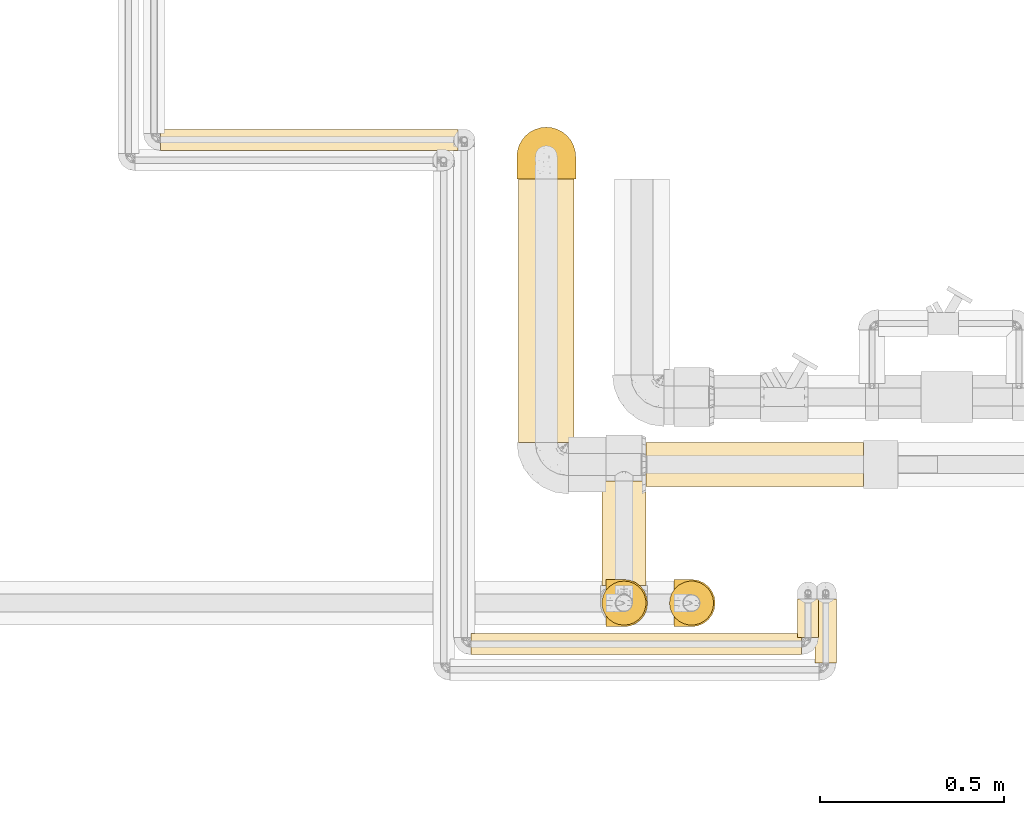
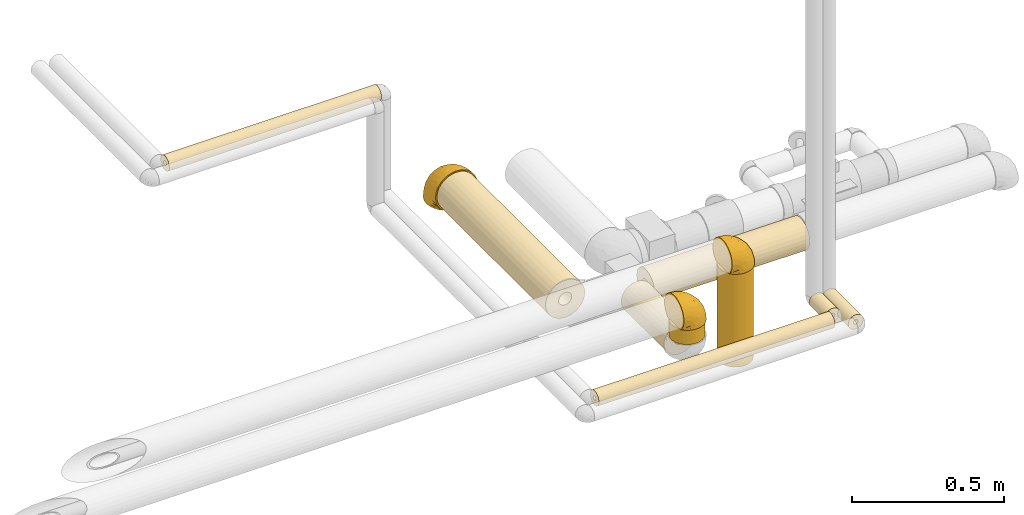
# One storey, part 7 of 83: 12 coverings.
"""IFC2X3 building model written with IfcOpenShell, lengths in millimetres."""

from ifc_helpers import new_model, entity, si_unit, converted_unit, derived_unit, direction, frame, origin_with_axes, origin_2d_with_axis, place, context, subcontext, project, spatial, hollow_circle, extrude, open_shell, surface_model, source, transform, mapped, element, save


model = new_model("IFC2X3")

# Units and contexts
model_context = context("Model", 3, precision=0.01, world=frame((0.0, 4.29681676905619e-09, 0.0)), true_north=direction((4.01073788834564e-13, 1.0)))
plan_context = context("Plan", 3, precision=0.01, world=frame((0.0, 4.29681676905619e-09, 0.0)), true_north=direction((4.01073788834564e-13, 1.0)))
body_context = subcontext(model_context, "Body", "Model", "MODEL_VIEW")
ifc_project = project(units=[converted_unit("PLANEANGLEUNIT", "DEGREE", entity("IfcPositiveLengthMeasure", 0.0174532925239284), si_unit("PLANEANGLEUNIT", "RADIAN"), dimensions=[0, 0, 0, 0, 0, 0, 0]), si_unit("AREAUNIT", "SQUARE_METRE"), si_unit("LENGTHUNIT", "METRE", prefix="MILLI"), si_unit("MASSUNIT", "GRAM", prefix="KILO"), si_unit("POWERUNIT", "WATT"), si_unit("PRESSUREUNIT", "PASCAL"), si_unit("FORCEUNIT", "NEWTON", prefix="KILO"), si_unit("ELECTRICVOLTAGEUNIT", "VOLT"), si_unit("ELECTRICCURRENTUNIT", "AMPERE"), si_unit("THERMODYNAMICTEMPERATUREUNIT", "DEGREE_CELSIUS"), si_unit("TIMEUNIT", "SECOND"), si_unit("VOLUMEUNIT", "CUBIC_METRE"), derived_unit("LINEARVELOCITYUNIT", [(si_unit("LENGTHUNIT", "METRE"), 1), (si_unit("TIMEUNIT", "SECOND"), -1)]), derived_unit("VOLUMETRICFLOWRATEUNIT", [(si_unit("VOLUMEUNIT", "CUBIC_METRE"), 1), (si_unit("TIMEUNIT", "SECOND"), -1)]), derived_unit("THERMALTRANSMITTANCEUNIT", [(si_unit("POWERUNIT", "WATT"), 1), (si_unit("THERMODYNAMICTEMPERATUREUNIT", "KELVIN"), -1), (si_unit("AREAUNIT", "SQUARE_METRE"), -1)]), derived_unit("SOUNDPRESSUREUNIT", [(si_unit("PRESSUREUNIT", "PASCAL"), 1)])], contexts=[model_context, plan_context])

# Site, building, storey
site_placement = place(None, frame((0.0, -4.29681676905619e-09, 0.0), z_axis=(0.0, 0.0, 1.0), x_axis=(1.0, 0.0, 0.0)))
site = spatial("IfcSite", under=ifc_project, at=site_placement, Name="ENGM", CompositionType="ELEMENT")
building_placement = place(site_placement, frame((0.0, 4.29681676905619e-09, 0.0), z_axis=(0.0, 0.0, 1.0), x_axis=(1.0, 0.0, 0.0)))
building = spatial("IfcBuilding", under=site, at=building_placement, Name="TI", CompositionType="ELEMENT")
storey_placement = place(building_placement, frame((0.0, 0.0, 204000.0), z_axis=(0.0, 0.0, 1.0), x_axis=(1.0, 0.0, 0.0)))
storey = spatial("IfcBuildingStorey", under=building, at=storey_placement, Name="Nivå D", CompositionType="ELEMENT", Elevation=204000.0)

# Coverings
shared_shape_1 = source(origin_with_axes(), body_context, "Body", "SurfaceModel", [
    surface_model("IfcShellBasedSurfaceModel", [(66.68615, 60.4, 44.5533), (44.55885, 60.4, 66.68245), (56.71233, 60.4, 56.70759), (74.09701, 60.4, 30.6867), (78.66008, 60.4, 15.64073), (-59.86937, 60.4, -53.36384), (-13.45191, 60.4, 79.06382), (0.0, 60.4, 80.2), (-26.52266, 60.4, 75.68744), (66.68245, 60.4, -44.55885), (80.2, 60.4, 0.0), (78.65881, 60.4, -15.6471), (74.09448, 60.4, -30.6928), (56.70759, 60.4, -56.71233), (44.5533, 60.4, -66.68615), (30.6867, 60.4, -74.09701), (-38.85297, 60.4, -70.16044), (-50.07051, 60.4, -62.6497), (-26.53389, 60.4, -75.6835), (0.0, 60.4, -80.2), (-13.46016, 60.4, -79.06241), (15.64073, 60.4, -78.66008), (-60.4, 47.38479, 64.70488), (-60.4, 59.86937, -53.36384), (-60.4, 47.38479, -64.70488), (-60.4, 16.77314, -78.42641), (-60.4, 16.77314, 78.42641), (-60.4, 32.80442, -73.18408), (-60.4, -20.75729, 77.46726), (-60.4, 0.0, 80.2), (-60.4, 59.86937, 53.36384), (-60.4, 32.80442, 73.18408), (-60.4, 0.0, -80.2), (-60.4, -20.75729, -77.46726), (-60.4, -40.1, -69.45524), (-60.4, -77.46726, -20.75729), (-60.4, -56.70997, -56.70997), (-60.4, -69.45524, -40.1), (-60.4, -40.1, 69.45524), (-60.4, -77.46726, 20.75729), (-60.4, -56.70997, 56.70997), (-60.4, -69.45524, 40.1), (-60.4, -80.2, 0.0), (-60.02478, 60.02478, 53.36384), (-60.02478, 60.02478, -53.36384), (-59.86937, 60.4, 53.36384), (-35.13493, 49.31431, -73.18165), (-30.44414, 36.38988, -77.12086), (-47.24837, 50.14287, -67.23448), (-51.76844, 1.71692, -80.2), (-49.59906, 26.61132, -76.22785), (-37.28592, 4.59768, -80.2), (-52.73185, 51.8369, -63.56342), (-42.45319, 40.2421, -72.90935), (-51.54432, 46.0645, -67.34579), (-56.12324, 44.39109, -67.16398), (-60.25988, 59.9274, -53.36384), (-36.88164, 25.89057, -78.00411), (-21.1535, 51.10695, -77.64859), (-45.04463, 56.76413, -66.64151), (-49.15929, 54.99138, -64.30522), (-59.9274, 60.25988, -53.36384), (-59.97609, 60.14233, -53.36384), (-20.84125, 41.65154, -78.45831), (-4.59768, 37.28592, -80.2), (-11.14421, 27.48834, -80.2), (-60.14233, 59.97609, -53.36384), (-2.29884, 48.84296, -80.2), (-17.69075, 17.69075, -80.2), (-27.48834, 11.14421, -80.2), (-48.22281, 2.42219, -80.2), (-38.04775, -11.91191, -78.72944), (75.40917, 24.01004, 0.0), (72.25534, 25.59122, -23.28207), (10.61001, 22.76207, -77.67441), (21.22289, 41.97871, -76.74814), (31.34576, 25.38063, -70.73221), (-3.74675, -31.18103, -64.77575), (-5.13665, -50.63443, -48.82266), (-32.87645, -45.29789, -63.62694), (-27.38508, -24.49772, -74.09514), (-4.74736, -5.39378, -75.94549), (46.21326, 31.25344, -62.60562), (36.40138, 43.87324, -70.73221), (-44.8504, -25.95034, -75.39633), (39.01921, -39.01921, 0.0), (49.22532, -23.71846, -19.55404), (61.36317, -9.9, 0.0), (-21.92667, -8.25016, -78.08521), (-22.38404, -68.61058, -30.69121), (-34.25952, -60.8409, -48.82266), (-34.15394, -76.26325, -15.12592), (22.35578, -47.44944, -26.93623), (25.62001, -10.18883, -61.99781), (44.02353, 6.8413, -56.46123), (37.09986, -19.13964, -46.3807), (18.79123, 5.85638, -71.78749), (57.98575, 29.33557, -50.88062), (9.9, -61.36317, 0.0), (66.5747, 27.65458, -37.80789), (57.74343, 3.50566, -37.8079), (18.9328, -40.15021, -43.03133), (9.31059, -35.56603, -55.16599), (-7.14053, -68.17975, -15.05794), (0.87984, -60.45932, -28.12389), (62.71669, -0.27663, -22.91513), (-24.01004, -75.40917, 0.0), (4.02735, 8.3767, -77.00574), (9.44148, -11.27075, -69.70024), (47.17014, -18.05894, -33.77057), (58.25151, 27.96235, 50.12561), (62.11094, 13.63756, 37.80204), (68.86186, 38.33131, 37.80204), (-21.55327, -72.8771, 16.7886), (-8.93094, -63.85731, 30.69121), (-37.04517, -72.05186, 30.69121), (48.04336, -22.81151, 24.73654), (28.08242, 17.78952, 70.72908), (20.54188, 39.16084, 76.74624), (8.43896, 21.5252, 77.99965), (43.58186, 7.06783, 56.95761), (22.34051, -7.09908, 65.42836), (34.21801, -17.24442, 50.87545), (-28.29947, -59.40083, 48.82266), (5.41219, -45.68707, 47.74068), (-11.73307, -37.38098, 63.62694), (2.27362, -63.23248, 17.75104), (23.80702, -49.34072, 18.96603), (49.08404, -10.51145, 39.06557), (-38.19227, -11.44439, 78.82289), (-34.65245, -26.97661, 74.09514), (-48.22281, 2.42219, 80.2), (27.59731, -37.89169, 36.27535), (-37.37974, -46.36918, 63.62694), (63.90334, 2.03316, 22.68626), (73.38333, 30.20673, 23.2758), (47.23671, 32.15612, 61.99357), (30.6928, 60.4, 74.09448), (15.6471, 60.4, 78.65881), (34.6965, 35.87563, 70.72909), (-12.06912, -23.90977, 71.26885), (-7.75233, -9.0194, 75.6161), (-23.22723, -15.01108, 76.62586), (-37.28592, 4.59768, 80.2), (-27.48834, 11.14421, 80.2), (-2.29884, 48.84296, 80.2), (-4.59768, 37.28592, 80.2), (13.04574, 5.0174, 73.71794), (6.541, -23.53082, 65.01615), (-2.98218, 9.37603, 78.50255), (-11.14421, 27.48834, 80.2), (-17.69075, 17.69075, 80.2), (-51.76844, 1.71692, 80.2), (-52.73034, 51.83578, 63.56483), (-47.24048, 50.13672, 67.24098), (-45.0362, 56.76319, 66.64715), (-49.15393, 54.98866, 64.3097), (-35.12322, 49.31397, 73.18652), (-60.25988, 59.9274, 53.36384), (-56.12324, 44.39109, 67.16398), (-51.54437, 46.06455, 67.34575), (-60.14233, 59.97609, 53.36384), (-49.59906, 26.61132, 76.22785), (-36.88467, 25.90213, 78.00143), (-59.97609, 60.14233, 53.36384), (-30.4326, 36.38986, 77.12344), (-21.14326, 51.1076, 77.65114), (-38.84256, 60.4, 70.1662), (-59.9274, 60.25988, 53.36384), (-50.06396, 60.4, 62.65492), (-20.83441, 41.65564, 78.45925), (-42.44607, 40.23511, 72.91391)], [open_shell([[[0, 1, 2]], [[0, 3, 4]], [[1, 0, 5]], [[6, 7, 8]], [[8, 7, 5]], [[9, 10, 11]], [[9, 11, 12]], [[9, 13, 14]], [[9, 14, 5]], [[10, 9, 5]], [[15, 5, 14]], [[5, 16, 17]], [[16, 5, 18]], [[19, 20, 5]], [[18, 5, 20]], [[15, 19, 5]], [[15, 21, 19]], [[10, 5, 0]], [[22, 23, 24]], [[24, 25, 26]], [[25, 24, 27]], [[25, 28, 29]], [[30, 23, 22]], [[22, 26, 31]], [[24, 26, 22]], [[25, 29, 26]], [[25, 32, 28]], [[33, 34, 35]], [[36, 37, 35]], [[36, 35, 34]], [[33, 35, 38]], [[38, 39, 40]], [[38, 28, 33]], [[40, 39, 41]], [[38, 35, 39]], [[42, 39, 35]], [[33, 28, 32]], [[23, 30, 43]], [[44, 23, 43]], [[45, 5, 43]], [[44, 43, 5]], [[46, 47, 48]], [[49, 32, 25]], [[49, 50, 51]], [[44, 48, 52]], [[50, 49, 25]], [[52, 53, 54]], [[25, 27, 50]], [[55, 24, 56]], [[54, 53, 57]], [[20, 58, 18]], [[24, 23, 56]], [[59, 60, 61]], [[59, 17, 16]], [[53, 48, 47]], [[5, 17, 61]], [[62, 60, 48]], [[61, 17, 59]], [[16, 18, 59]], [[46, 60, 59]], [[50, 57, 51]], [[63, 58, 64]], [[55, 27, 24]], [[46, 59, 58]], [[47, 63, 65]], [[52, 54, 66]], [[58, 59, 18]], [[20, 67, 58]], [[62, 48, 44]], [[54, 50, 55]], [[63, 46, 58]], [[47, 68, 57]], [[57, 68, 69]], [[54, 57, 50]], [[48, 60, 46]], [[61, 60, 62]], [[65, 68, 47]], [[47, 46, 63]], [[63, 64, 65]], [[27, 55, 50]], [[67, 20, 19]], [[67, 64, 58]], [[54, 56, 66]], [[48, 53, 52]], [[57, 53, 47]], [[56, 54, 55]], [[44, 52, 66]], [[51, 57, 69]], [[70, 71, 33]], [[70, 51, 71]], [[11, 72, 73]], [[74, 75, 76]], [[77, 78, 79]], [[77, 80, 81]], [[82, 76, 83]], [[71, 84, 33]], [[85, 86, 87]], [[15, 75, 21]], [[88, 81, 80]], [[12, 11, 73]], [[89, 37, 90]], [[35, 91, 42]], [[86, 85, 92]], [[37, 89, 35]], [[37, 36, 90]], [[34, 79, 36]], [[84, 79, 34]], [[93, 94, 95]], [[19, 21, 67]], [[76, 94, 96]], [[13, 9, 97]], [[82, 13, 97]], [[85, 98, 92]], [[99, 73, 100]], [[83, 75, 15]], [[21, 75, 67]], [[101, 78, 102]], [[103, 91, 89]], [[92, 98, 103]], [[104, 78, 101]], [[87, 86, 105]], [[103, 98, 106]], [[82, 94, 76]], [[105, 72, 87]], [[12, 99, 9]], [[107, 108, 81]], [[11, 10, 72]], [[97, 99, 100]], [[93, 96, 94]], [[74, 64, 75]], [[77, 79, 80]], [[14, 83, 15]], [[90, 79, 78]], [[107, 65, 74]], [[92, 101, 109]], [[73, 105, 100]], [[80, 71, 88]], [[102, 95, 101]], [[74, 96, 107]], [[96, 74, 76]], [[14, 13, 82]], [[75, 83, 76]], [[82, 83, 14]], [[82, 97, 94]], [[97, 100, 94]], [[95, 94, 100]], [[109, 95, 100]], [[95, 109, 101]], [[79, 90, 36]], [[89, 90, 78]], [[33, 32, 70]], [[69, 88, 51]], [[71, 80, 84]], [[81, 69, 68]], [[51, 88, 71]], [[69, 81, 88]], [[79, 84, 80]], [[34, 33, 84]], [[108, 96, 93]], [[96, 108, 107]], [[91, 103, 106]], [[104, 103, 89]], [[42, 91, 106]], [[89, 91, 35]], [[102, 108, 93]], [[77, 81, 108]], [[81, 68, 107]], [[105, 73, 72]], [[78, 104, 89]], [[92, 103, 104]], [[9, 99, 97]], [[12, 73, 99]], [[75, 64, 67]], [[65, 107, 68]], [[65, 64, 74]], [[109, 105, 86]], [[105, 109, 100]], [[92, 109, 86]], [[104, 101, 92]], [[102, 78, 77]], [[108, 102, 77]], [[95, 102, 93]], [[110, 111, 112]], [[42, 106, 113]], [[113, 114, 115]], [[87, 116, 85]], [[117, 118, 119]], [[120, 121, 122]], [[123, 124, 125]], [[126, 127, 114]], [[122, 128, 120]], [[98, 85, 127]], [[129, 28, 130]], [[28, 129, 131]], [[132, 127, 116]], [[133, 130, 38]], [[38, 40, 133]], [[115, 41, 39]], [[120, 128, 111]], [[41, 115, 123]], [[38, 130, 28]], [[85, 116, 127]], [[111, 134, 135]], [[133, 123, 125]], [[110, 2, 136]], [[128, 116, 134]], [[4, 3, 135]], [[2, 1, 136]], [[118, 137, 138]], [[135, 3, 112]], [[10, 4, 72]], [[137, 139, 1]], [[140, 141, 142]], [[41, 123, 40]], [[129, 142, 143]], [[118, 117, 139]], [[141, 144, 142]], [[120, 111, 110]], [[138, 145, 118]], [[134, 72, 135]], [[119, 118, 146]], [[139, 117, 136]], [[72, 4, 135]], [[128, 134, 111]], [[121, 117, 147]], [[0, 112, 3]], [[124, 123, 114]], [[122, 148, 124]], [[132, 122, 124]], [[126, 114, 113]], [[132, 114, 127]], [[148, 122, 121]], [[0, 2, 110]], [[135, 112, 111]], [[110, 112, 0]], [[110, 136, 120]], [[136, 117, 120]], [[121, 120, 117]], [[147, 117, 119]], [[141, 140, 148]], [[149, 150, 151]], [[119, 149, 147]], [[123, 133, 40]], [[130, 133, 125]], [[131, 129, 143]], [[131, 29, 28]], [[142, 129, 130]], [[140, 130, 125]], [[144, 149, 151]], [[130, 140, 142]], [[148, 140, 125]], [[124, 148, 125]], [[148, 121, 147]], [[116, 87, 134]], [[72, 134, 87]], [[132, 116, 128]], [[114, 132, 124]], [[39, 42, 113]], [[123, 115, 114]], [[39, 113, 115]], [[126, 106, 98]], [[106, 126, 113]], [[98, 127, 126]], [[150, 149, 119]], [[148, 147, 141]], [[141, 147, 149]], [[1, 139, 136]], [[137, 118, 139]], [[145, 138, 7]], [[145, 146, 118]], [[132, 128, 122]], [[119, 146, 150]], [[141, 149, 144]], [[144, 143, 142]], [[26, 29, 152]], [[153, 154, 43]], [[155, 156, 157]], [[22, 158, 30]], [[159, 160, 158]], [[43, 161, 153]], [[160, 162, 163]], [[154, 164, 43]], [[165, 157, 154]], [[26, 162, 31]], [[163, 143, 144]], [[26, 152, 162]], [[166, 145, 6]], [[159, 31, 162]], [[166, 8, 167]], [[7, 6, 145]], [[168, 164, 156]], [[166, 167, 155]], [[6, 8, 166]], [[157, 166, 155]], [[169, 155, 167]], [[170, 166, 157]], [[143, 162, 152]], [[154, 157, 156]], [[170, 146, 166]], [[169, 45, 168]], [[169, 168, 155]], [[22, 159, 158]], [[165, 163, 151]], [[154, 153, 171]], [[165, 150, 170]], [[163, 165, 171]], [[143, 163, 162]], [[168, 156, 155]], [[154, 156, 164]], [[157, 165, 170]], [[31, 159, 22]], [[150, 165, 151]], [[150, 146, 170]], [[160, 159, 162]], [[166, 146, 145]], [[161, 158, 160]], [[171, 153, 160]], [[163, 171, 160]], [[154, 171, 165]], [[153, 161, 160]], [[144, 151, 163]], [[1, 138, 137]], [[1, 5, 7]], [[7, 138, 1]], [[167, 8, 169]], [[5, 169, 8]], [[169, 5, 45]], [[10, 0, 4]]])]),
])
covering_1_placement = place(storey_placement, frame((608357.36825, 698746.21699, 5915.24411), z_axis=(-1.0, 0.0, 0.0), x_axis=(0.0, 1.0, 0.0)))
element("IfcCovering", 1, at=covering_1_placement, inside=storey, Name="BI11T - Rørskål m/Al.folie - varme 60-25", PredefinedType="INSULATION", context=body_context, shape_type="MappedRepresentation", body=[
    mapped(shared_shape_1, transform((0.0, 0.0, 0.0), scale=1.0)),
])
shared_shape_2 = source(origin_with_axes(), body_context, "Body", "SweptSolid", [
    extrude(hollow_circle(Radius=75.0, WallThickness=50.0, at=origin_2d_with_axis()), frame((0.0, 0.0, 0.0), z_axis=(1.0, 0.0, 0.0), x_axis=(0.0, 1.0, 0.0)), (0.0, 0.0, 1.0), 717.4),
])
covering_2_placement = place(storey_placement, frame((608357.22198, 698685.81699, 5915.24411), z_axis=(0.0, 0.0, 1.0), x_axis=(0.0, -1.0, 0.0)))
element("IfcCovering", 2, at=covering_2_placement, inside=storey, Name="BI11T - Rørskål m/Al.folie - varme 60-25", PredefinedType="INSULATION", context=body_context, shape_type="MappedRepresentation", body=[
    mapped(shared_shape_2, transform((0.0, 0.0, 0.0), scale=1.0)),
])
shared_shape_3 = source(origin_with_axes(), body_context, "Body", "SweptSolid", [
    extrude(hollow_circle(Radius=60.0, WallThickness=40.0, at=origin_2d_with_axis()), frame((0.0, 0.0, 0.0), z_axis=(1.0, 0.0, 0.0), x_axis=(0.0, 1.0, 0.0)), (0.0, 0.0, 1.0), 591.4),
])
covering_3_placement = place(storey_placement, frame((609220.57456, 697908.0, 5915.24411), z_axis=(0.0, 0.0, 1.0), x_axis=(-1.0, 0.0, 0.0)))
element("IfcCovering", 3, at=covering_3_placement, inside=storey, Name="BI11T - Rørskål m/Al.folie - varme 60-25", PredefinedType="INSULATION", context=body_context, shape_type="MappedRepresentation", body=[
    mapped(shared_shape_3, transform((0.0, 0.0, 0.0), scale=1.0)),
])
shared_shape_4 = source(origin_with_axes(), body_context, "Body", "SweptSolid", [
    extrude(hollow_circle(Radius=60.0, WallThickness=40.0, at=origin_2d_with_axis()), frame((0.0, 0.0, 0.0), z_axis=(1.0, 0.0, 0.0), x_axis=(0.0, 1.0, 0.0)), (0.0, 0.0, 1.0), 283.3),
])
covering_4_placement = place(storey_placement, frame((608568.77351, 697862.7, 5915.24411), z_axis=(0.0, 0.0, 1.0), x_axis=(0.0, -1.0, 0.0)))
element("IfcCovering", 4, at=covering_4_placement, inside=storey, Name="BI11T - Rørskål m/Al.folie - varme 60-25", PredefinedType="INSULATION", context=body_context, shape_type="MappedRepresentation", body=[
    mapped(shared_shape_4, transform((0.0, 0.0, 0.0), scale=1.0)),
])
shared_shape_5 = source(origin_with_axes(), body_context, "Body", "SweptSolid", [
    extrude(hollow_circle(Radius=60.0, WallThickness=40.0, at=origin_2d_with_axis()), frame((0.0, 0.0, 0.0), z_axis=(1.0, 0.0, 0.0), x_axis=(0.0, 1.0, 0.0)), (0.0, 0.0, 1.0), 376.9),
])
covering_5_placement = place(storey_placement, frame((608752.77351, 697531.0, 5807.80999000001), z_axis=(0.0, 1.0, 0.0), x_axis=(0.0, 0.0, 1.0)))
element("IfcCovering", 5, at=covering_5_placement, inside=storey, Name="BI11T - Rørskål m/Al.folie - varme 60-25", PredefinedType="INSULATION", context=body_context, shape_type="MappedRepresentation", body=[
    mapped(shared_shape_5, transform((0.0, 0.0, 0.0), scale=1.0)),
])
shared_shape_6 = source(origin_with_axes(), body_context, "Body", "SweptSolid", [
    extrude(hollow_circle(Radius=60.0, WallThickness=40.0, at=origin_2d_with_axis()), frame((0.0, 0.0, 0.0), z_axis=(1.0, 0.0, 0.0), x_axis=(0.0, 1.0, 0.0)), (0.0, 0.0, 1.0), 60.0),
])
covering_6_placement = place(storey_placement, frame((608568.77351, 697531.0, 5963.64410999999), z_axis=(1.0, 0.0, 0.0), x_axis=(0.0, 0.0, 1.0)))
element("IfcCovering", 6, at=covering_6_placement, inside=storey, Name="BI11T - Rørskål m/Al.folie - varme 60-25", PredefinedType="INSULATION", context=body_context, shape_type="MappedRepresentation", body=[
    mapped(shared_shape_6, transform((0.0, 0.0, 0.0), scale=1.0)),
])
shared_shape_7 = source(origin_with_axes(), body_context, "Body", "SurfaceModel", [
    surface_model("IfcShellBasedSurfaceModel", [(35.67206, 48.4, 53.37737), (12.52953, 48.4, 62.96547), (24.57409, 48.4, 59.31066), (53.38045, 48.4, 35.66746), (45.39837, 48.4, 45.39414), (59.31225, 48.4, 24.57023), (62.96584, 48.4, 12.52767), (-47.9758, 48.4, -42.66103), (-13.43483, 48.4, 62.77854), (0.0, 48.4, 64.2), (-26.28736, 48.4, 58.57145), (-37.97393, 48.4, 51.76505), (-47.9758, 48.4, 42.66103), (62.96547, 48.4, -12.52953), (53.37737, 48.4, -35.67206), (59.31066, 48.4, -24.57409), (45.39414, 48.4, -45.39837), (35.66746, 48.4, -53.38045), (-26.30165, 48.4, -58.56503), (-37.98609, 48.4, -51.75613), (-13.44957, 48.4, -62.77538), (12.52767, 48.4, -62.96584), (0.0, 48.4, -64.2), (24.57023, 48.4, -59.31225), (64.2, 48.4, 0.0), (-48.4, 47.9758, -42.66103), (-48.4, 37.97735, -51.76254), (-48.4, 0.0, -64.2), (-48.4, 26.29451, -58.56824), (-48.4, 13.44543, -62.77627), (-48.4, 0.0, 64.2), (-48.4, 37.97735, 51.76254), (-48.4, 47.9758, 42.66103), (-48.4, 26.29451, 58.56824), (-48.4, 13.44543, 62.77627), (-48.4, -32.1, -55.59883), (-48.4, -62.01244, -16.61618), (-48.4, -45.39626, -45.39626), (-48.4, -55.59883, -32.1), (-48.4, -16.61618, 62.01244), (-48.4, -32.1, 55.59883), (-48.4, -62.01244, 16.61618), (-48.4, -45.39626, 45.39626), (-48.4, -55.59883, 32.1), (-48.4, -64.2, 0.0), (-48.4, -16.61618, -62.01244), (-48.10004, 48.10004, 42.66103), (-48.10004, 48.10004, -42.66103), (-1.37629, 41.48093, -64.2), (-37.07461, 27.21182, -59.39278), (-44.97037, 35.57949, -53.73654), (-41.27827, 36.89498, -53.90532), (-37.00016, 45.60229, -52.70243), (-29.31531, 19.83775, -62.64408), (-14.17603, 14.17603, -64.2), (-22.02708, 8.93013, -64.2), (-39.73832, 21.3332, -61.01146), (-41.48093, 1.37629, -64.2), (-48.28795, 48.02221, -42.66103), (-38.16189, 38.88556, -54.19101), (-29.87812, 3.68423, -64.2), (-48.02221, 48.28795, -42.66103), (-21.33925, 39.73822, -61.00958), (-25.79325, 31.12393, -61.02233), (-36.96569, 42.42308, -53.49343), (-3.68423, 29.87812, -64.2), (-8.93013, 22.02708, -64.2), (-48.194, 48.06112, -42.66103), (-48.06112, 48.194, -42.66103), (8.48911, 18.24586, -62.1777), (16.99418, 33.64238, -61.43484), (-30.49395, -9.53365, -63.02284), (-38.64472, 1.94045, -64.2), (-21.95352, -19.60701, -59.31307), (-3.81793, -4.30592, -60.79427), (-3.0225, -24.9528, -51.85283), (20.49703, -8.14014, -49.62828), (15.0359, 4.70894, -57.46464), (35.23599, 5.50194, -45.19577), (-4.14099, -40.52829, -39.08248), (-26.35487, -36.2593, -50.93329), (25.09274, 20.34784, -56.61889), (36.99279, 25.05456, -50.11492), (29.14245, 35.16082, -56.61889), (-13.60469, -58.68896, 0.0), (-25.59283, -60.68938, -12.10735), (2.08894, -50.69012, -13.28018), (3.21553, 6.72208, -61.64201), (7.54281, -9.00849, -55.79479), (57.83799, 20.52552, -18.64159), (-17.95481, -54.92083, -24.56827), (-35.94397, -20.77355, -60.35428), (58.68896, 13.60469, 0.0), (-27.46493, -48.70213, -39.08248), (-1.84212, 39.13906, -64.2), (14.88455, -31.56029, -35.37693), (6.27929, -29.0505, -44.36228), (46.41546, 23.5232, -40.73128), (28.68519, -28.68518, -21.15353), (46.21866, 2.8391, -30.26881), (48.16466, -5.97091, -15.01547), (42.69531, -17.78462, 0.0), (29.68658, -15.30552, -37.126), (17.78462, -42.69531, 0.0), (53.29042, 22.17712, -30.26796), (-17.5789, -6.59656, -62.50752), (3.72961, -44.69, -26.90073), (27.68271, -13.41396, 40.72682), (39.69532, -10.61595, 28.27919), (35.06522, 5.93736, 45.5463), (-26.3805, -60.9583, 11.54664), (-4.25508, -53.97258, 11.91279), (10.97566, -43.46468, 20.06845), (-8.92303, -51.81813, 24.56827), (-30.73003, -57.85383, 24.56827), (58.76223, 24.31789, 18.63869), (-23.23629, -47.69313, 39.08248), (4.27109, -36.84856, 37.91588), (-9.23761, -29.82718, 50.93329), (6.78942, 17.28417, 62.43347), (16.45901, 31.43285, 61.43395), (-3.68423, 29.87812, 64.2), (22.53752, 14.39046, 56.6166), (-30.61027, -9.1573, 63.09805), (-27.71305, -21.57442, 59.31307), (48.93861, -4.26149, 15.61988), (49.80053, 11.17603, 30.26452), (-29.85423, -37.09409, 50.93329), (-22.02708, 8.93013, 64.2), (-29.87812, 3.68423, 64.2), (-18.62042, -11.95946, 61.35313), (46.66938, 22.58996, 40.13183), (55.14267, 30.85344, 30.26452), (18.23226, -5.38984, 52.2997), (28.72076, -28.72075, 21.00884), (37.8297, 25.84287, 49.62462), (27.80973, 28.88783, 56.61705), (-38.64472, 1.94045, 64.2), (-1.84212, 39.13906, 64.2), (-8.93013, 22.02708, 64.2), (-9.69913, -19.09497, 57.07097), (-6.23507, -7.1743, 60.54265), (5.38501, -18.55002, 52.1248), (10.52262, 4.05869, 58.98621), (26.6042, -23.81792, 31.88851), (-2.36811, 7.49373, 62.83226), (-14.17603, 14.17603, 64.2), (-41.48093, 1.37629, 64.2), (-37.07461, 27.21182, 59.39278), (-39.73832, 21.3332, 61.01146), (-29.31531, 19.83774, 62.64408), (-1.37629, 41.48093, 64.2), (-21.32368, 39.73896, 61.01436), (-48.28795, 48.02221, 42.66103), (-44.97037, 35.57949, 53.73654), (-41.27827, 36.89498, 53.90532), (-25.79549, 31.12875, 61.0208), (-38.17194, 38.89834, 54.1808), (-48.194, 48.06112, 42.66103), (-34.13452, 44.98258, 54.62478), (-36.95405, 42.42265, 53.5004), (-48.02221, 48.28795, 42.66103), (-48.06112, 48.194, 42.66103)], [open_shell([[[0, 1, 2]], [[3, 0, 4]], [[3, 5, 6]], [[3, 6, 0]], [[7, 1, 0]], [[8, 9, 10]], [[7, 9, 1]], [[10, 7, 11]], [[7, 10, 9]], [[7, 12, 11]], [[0, 6, 7]], [[6, 13, 14]], [[14, 13, 15]], [[7, 14, 16]], [[14, 7, 6]], [[7, 16, 17]], [[7, 18, 19]], [[18, 7, 20]], [[21, 22, 7]], [[20, 7, 22]], [[7, 23, 21]], [[7, 17, 23]], [[13, 6, 24]], [[25, 26, 27]], [[28, 29, 27]], [[28, 27, 26]], [[25, 27, 30]], [[31, 32, 33]], [[33, 30, 34]], [[33, 32, 25]], [[25, 30, 33]], [[27, 35, 30]], [[35, 36, 30]], [[37, 38, 36]], [[37, 36, 35]], [[30, 36, 39]], [[40, 41, 42]], [[41, 40, 39]], [[42, 41, 43]], [[39, 36, 41]], [[36, 44, 41]], [[35, 27, 45]], [[25, 32, 46]], [[47, 25, 46]], [[12, 7, 46]], [[47, 46, 7]], [[20, 22, 48]], [[49, 50, 51]], [[18, 52, 19]], [[53, 54, 55]], [[56, 57, 29]], [[29, 28, 56]], [[50, 26, 58]], [[59, 53, 49]], [[53, 60, 56]], [[26, 25, 58]], [[61, 7, 52]], [[62, 63, 64]], [[57, 27, 29]], [[57, 56, 60]], [[7, 19, 52]], [[50, 28, 26]], [[63, 54, 53]], [[65, 62, 48]], [[63, 65, 66]], [[52, 18, 62]], [[48, 62, 20]], [[64, 61, 52]], [[62, 18, 20]], [[56, 49, 53]], [[51, 58, 67]], [[59, 64, 63]], [[59, 68, 64]], [[53, 59, 63]], [[47, 59, 51]], [[65, 63, 62]], [[28, 50, 56]], [[50, 49, 56]], [[59, 49, 51]], [[58, 51, 50]], [[67, 47, 51]], [[66, 54, 63]], [[62, 64, 52]], [[68, 59, 47]], [[68, 61, 64]], [[69, 65, 70]], [[60, 71, 72]], [[73, 74, 75]], [[71, 45, 72]], [[76, 77, 78]], [[75, 79, 80]], [[69, 70, 81]], [[82, 81, 83]], [[84, 85, 86]], [[87, 88, 74]], [[15, 13, 89]], [[36, 85, 44]], [[36, 38, 90]], [[35, 91, 80]], [[13, 92, 89]], [[38, 93, 90]], [[93, 38, 37]], [[23, 70, 21]], [[94, 22, 21]], [[95, 79, 96]], [[16, 14, 97]], [[82, 16, 97]], [[45, 71, 91]], [[98, 99, 100]], [[83, 70, 23]], [[21, 70, 94]], [[100, 92, 101]], [[76, 78, 102]], [[86, 103, 84]], [[85, 36, 90]], [[99, 89, 100]], [[99, 104, 89]], [[82, 78, 81]], [[105, 74, 73]], [[104, 14, 15]], [[98, 101, 103]], [[13, 24, 92]], [[97, 104, 99]], [[35, 80, 37]], [[106, 86, 90]], [[87, 66, 69]], [[17, 83, 23]], [[75, 80, 73]], [[81, 78, 77]], [[93, 80, 79]], [[73, 71, 105]], [[96, 102, 95]], [[69, 77, 87]], [[77, 69, 81]], [[17, 16, 82]], [[70, 83, 81]], [[82, 83, 17]], [[82, 97, 78]], [[97, 99, 78]], [[102, 78, 99]], [[99, 98, 102]], [[98, 106, 95]], [[92, 100, 89]], [[98, 100, 101]], [[80, 93, 37]], [[90, 93, 79]], [[45, 27, 72]], [[55, 105, 60]], [[71, 73, 91]], [[74, 55, 54]], [[60, 105, 71]], [[55, 74, 105]], [[80, 91, 73]], [[35, 45, 91]], [[88, 77, 76]], [[77, 88, 87]], [[96, 88, 76]], [[75, 74, 88]], [[106, 90, 79]], [[98, 103, 86]], [[95, 106, 79]], [[98, 86, 106]], [[96, 79, 75]], [[98, 95, 102]], [[88, 96, 75]], [[102, 96, 76]], [[74, 54, 87]], [[14, 104, 97]], [[15, 89, 104]], [[70, 65, 94]], [[86, 85, 90]], [[44, 85, 84]], [[66, 87, 54]], [[66, 65, 69]], [[107, 108, 109]], [[44, 84, 110]], [[111, 112, 113]], [[110, 113, 114]], [[5, 115, 6]], [[116, 117, 118]], [[119, 120, 121]], [[122, 120, 119]], [[123, 39, 124]], [[101, 92, 125]], [[115, 126, 125]], [[127, 124, 40]], [[40, 42, 127]], [[128, 129, 130]], [[131, 126, 132]], [[43, 114, 116]], [[109, 133, 107]], [[40, 124, 39]], [[103, 101, 134]], [[108, 125, 126]], [[131, 4, 135]], [[43, 116, 42]], [[132, 5, 3]], [[135, 4, 0]], [[120, 2, 1]], [[115, 5, 132]], [[24, 6, 92]], [[136, 0, 2]], [[39, 123, 137]], [[113, 110, 111]], [[123, 130, 129]], [[120, 122, 136]], [[41, 114, 43]], [[109, 126, 131]], [[1, 138, 120]], [[108, 134, 125]], [[119, 121, 139]], [[136, 122, 135]], [[140, 141, 130]], [[92, 6, 115]], [[107, 142, 117]], [[115, 125, 92]], [[133, 122, 143]], [[108, 144, 134]], [[134, 101, 125]], [[117, 116, 113]], [[127, 116, 118]], [[117, 113, 112]], [[142, 107, 133]], [[3, 4, 131]], [[115, 132, 126]], [[131, 132, 3]], [[131, 135, 109]], [[135, 122, 109]], [[133, 109, 122]], [[143, 122, 119]], [[141, 140, 142]], [[116, 127, 42]], [[124, 127, 118]], [[145, 139, 146]], [[119, 145, 143]], [[137, 123, 129]], [[137, 30, 39]], [[145, 128, 141]], [[130, 123, 124]], [[140, 124, 118]], [[128, 130, 141]], [[124, 140, 130]], [[142, 140, 118]], [[117, 142, 118]], [[142, 133, 143]], [[109, 108, 126]], [[144, 108, 107]], [[139, 145, 119]], [[142, 143, 141]], [[128, 145, 146]], [[141, 143, 145]], [[107, 117, 144]], [[112, 144, 117]], [[110, 114, 41]], [[116, 114, 113]], [[44, 110, 41]], [[110, 84, 111]], [[84, 103, 111]], [[112, 103, 134]], [[103, 112, 111]], [[112, 134, 144]], [[0, 136, 135]], [[2, 120, 136]], [[138, 1, 9]], [[138, 121, 120]], [[34, 30, 147]], [[148, 149, 150]], [[121, 151, 152]], [[31, 153, 32]], [[154, 155, 153]], [[150, 156, 157]], [[154, 33, 149]], [[155, 158, 153]], [[159, 160, 152]], [[34, 149, 33]], [[150, 149, 129]], [[156, 150, 146]], [[152, 151, 8]], [[31, 154, 153]], [[129, 149, 147]], [[10, 152, 8]], [[157, 156, 160]], [[160, 159, 161]], [[8, 151, 9]], [[152, 160, 156]], [[150, 129, 128]], [[121, 152, 156]], [[121, 156, 139]], [[11, 12, 161]], [[34, 147, 149]], [[159, 10, 11]], [[157, 162, 46]], [[157, 46, 155]], [[160, 162, 157]], [[157, 155, 148]], [[33, 154, 31]], [[154, 149, 148]], [[157, 148, 150]], [[154, 148, 155]], [[155, 46, 158]], [[156, 146, 139]], [[10, 159, 152]], [[161, 159, 11]], [[160, 161, 162]], [[60, 53, 55]], [[146, 150, 128]]])]),
])
for number, where, z_axis, x_axis in (
    (7, (608568.77351, 697531.0, 6072.06187000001), (0.0, -1.0, 0.0), (0.0, 0.0, 1.0)),
    (8, (608752.77351, 697531.0, 6233.10000000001), (0.0, -1.0, 0.0), (0.0, 0.0, 1.0)),
):
    element("IfcCovering", number, at=place(storey_placement, frame(where, z_axis=z_axis, x_axis=x_axis)), inside=storey, Name="BI11T - Rørskål m/Al.folie - varme 60-25", PredefinedType="INSULATION", context=body_context, shape_type="MappedRepresentation", body=[
        mapped(shared_shape_7, transform((0.0, 0.0, 0.0), scale=1.0)),
    ])
shared_shape_8 = source(origin_with_axes(), body_context, "Body", "SweptSolid", [
    extrude(hollow_circle(Radius=29.0, WallThickness=20.0, at=origin_2d_with_axis()), frame((0.0, 0.0, 0.0), z_axis=(1.0, 0.0, 0.0), x_axis=(0.0, 1.0, 0.0)), (0.0, 0.0, 1.0), 174.0),
])
covering_7_placement = place(storey_placement, frame((609117.81817, 697367.51267, 5920.0), z_axis=(0.0, 0.0, 1.0), x_axis=(0.0, 1.0, 0.0)))
element("IfcCovering", 9, at=covering_7_placement, inside=storey, Name="BI10T - Cellegummi 18-32 mm kalde rør", PredefinedType="INSULATION", context=body_context, shape_type="MappedRepresentation", body=[
    mapped(shared_shape_8, transform((0.0, 0.0, 0.0), scale=1.0)),
])
shared_shape_9 = source(origin_with_axes(), body_context, "Body", "SweptSolid", [
    extrude(hollow_circle(Radius=29.0, WallThickness=20.0, at=origin_2d_with_axis()), frame((0.0, 0.0, 0.0), z_axis=(1.0, 0.0, 0.0), x_axis=(0.0, 1.0, 0.0)), (0.0, 0.0, 1.0), 899.3),
])
covering_8_placement = place(storey_placement, frame((608152.38671, 697419.51267, 5920.0), z_axis=(0.0, 0.0, 1.0), x_axis=(1.0, 0.0, 0.0)))
element("IfcCovering", 10, at=covering_8_placement, inside=storey, Name="BI10T - Cellegummi 18-32 mm kalde rør", PredefinedType="INSULATION", context=body_context, shape_type="MappedRepresentation", body=[
    mapped(shared_shape_9, transform((0.0, 0.0, 0.0), scale=1.0)),
])
shared_shape_10 = source(origin_with_axes(), body_context, "Body", "SweptSolid", [
    extrude(hollow_circle(Radius=29.0, WallThickness=20.0, at=origin_2d_with_axis()), frame((0.0, 0.0, 0.0), z_axis=(1.0, 0.0, 0.0), x_axis=(0.0, 1.0, 0.0)), (0.0, 0.0, 1.0), 104.0),
])
covering_9_placement = place(storey_placement, frame((609069.65402, 697437.51267, 5920.0), z_axis=(0.0, 0.0, 1.0), x_axis=(0.0, 1.0, 0.0)))
element("IfcCovering", 11, at=covering_9_placement, inside=storey, Name="BI10T - Cellegummi 18-32 mm kalde rør", PredefinedType="INSULATION", context=body_context, shape_type="MappedRepresentation", body=[
    mapped(shared_shape_10, transform((0.0, 0.0, 0.0), scale=1.0)),
])
shared_shape_11 = source(origin_with_axes(), body_context, "Body", "SweptSolid", [
    extrude(hollow_circle(Radius=29.0, WallThickness=20.0, at=origin_2d_with_axis()), frame((0.0, 0.0, 0.0), z_axis=(1.0, 0.0, 0.0), x_axis=(0.0, 1.0, 0.0)), (0.0, 0.0, 1.0), 809.0),
])
covering_10_placement = place(storey_placement, frame((607307.38671, 698791.7695, 6330.0), z_axis=(0.0, 0.0, 1.0), x_axis=(1.0, 0.0, 0.0)))
element("IfcCovering", 12, at=covering_10_placement, inside=storey, Name="BI10T - Cellegummi 18-32 mm kalde rør", PredefinedType="INSULATION", context=body_context, shape_type="MappedRepresentation", body=[
    mapped(shared_shape_11, transform((0.0, 0.0, 0.0), scale=1.0)),
])

save(model, "model.ifc")
